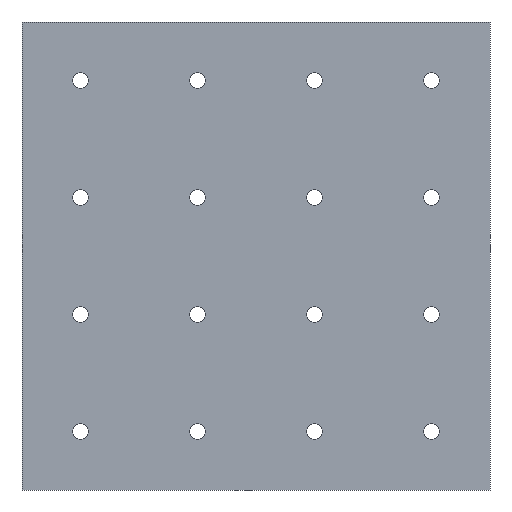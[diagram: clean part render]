
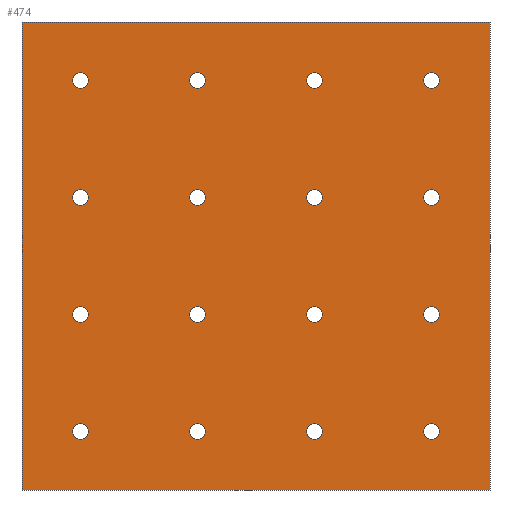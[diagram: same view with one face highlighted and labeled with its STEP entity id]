
A CAD part, front view. The second image highlights one B-rep face of the part: STEP entity #474.
In plain terms, the highlighted planar face has unit normal (0, -1, 0).
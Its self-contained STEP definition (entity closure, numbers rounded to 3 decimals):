
#31=FACE_BOUND('',#113,.T.);
#32=FACE_BOUND('',#114,.T.);
#33=FACE_BOUND('',#115,.T.);
#34=FACE_BOUND('',#116,.T.);
#35=FACE_BOUND('',#117,.T.);
#36=FACE_BOUND('',#118,.T.);
#37=FACE_BOUND('',#119,.T.);
#38=FACE_BOUND('',#120,.T.);
#39=FACE_BOUND('',#121,.T.);
#40=FACE_BOUND('',#122,.T.);
#41=FACE_BOUND('',#123,.T.);
#42=FACE_BOUND('',#124,.T.);
#43=FACE_BOUND('',#125,.T.);
#44=FACE_BOUND('',#126,.T.);
#45=FACE_BOUND('',#127,.T.);
#46=FACE_BOUND('',#128,.T.);
#52=PLANE('',#551);
#74=FACE_OUTER_BOUND('',#112,.T.);
#112=EDGE_LOOP('',(#417,#418,#419,#420));
#113=EDGE_LOOP('',(#421));
#114=EDGE_LOOP('',(#422));
#115=EDGE_LOOP('',(#423));
#116=EDGE_LOOP('',(#424));
#117=EDGE_LOOP('',(#425));
#118=EDGE_LOOP('',(#426));
#119=EDGE_LOOP('',(#427));
#120=EDGE_LOOP('',(#428));
#121=EDGE_LOOP('',(#429));
#122=EDGE_LOOP('',(#430));
#123=EDGE_LOOP('',(#431));
#124=EDGE_LOOP('',(#432));
#125=EDGE_LOOP('',(#433));
#126=EDGE_LOOP('',(#434));
#127=EDGE_LOOP('',(#435));
#128=EDGE_LOOP('',(#436));
#137=LINE('',#742,#165);
#146=LINE('',#780,#174);
#152=LINE('',#804,#180);
#155=LINE('',#809,#183);
#165=VECTOR('',#612,10.);
#174=VECTOR('',#653,10.);
#180=VECTOR('',#679,10.);
#183=VECTOR('',#684,10.);
#186=CIRCLE('',#500,1.65);
#188=CIRCLE('',#503,1.65);
#190=CIRCLE('',#506,1.65);
#192=CIRCLE('',#509,1.65);
#194=CIRCLE('',#512,1.65);
#196=CIRCLE('',#515,1.65);
#198=CIRCLE('',#518,1.65);
#200=CIRCLE('',#521,1.65);
#202=CIRCLE('',#525,1.65);
#204=CIRCLE('',#528,1.65);
#206=CIRCLE('',#531,1.65);
#208=CIRCLE('',#534,1.65);
#210=CIRCLE('',#537,1.65);
#212=CIRCLE('',#541,1.65);
#214=CIRCLE('',#544,1.65);
#216=CIRCLE('',#547,1.65);
#218=VERTEX_POINT('',#694);
#220=VERTEX_POINT('',#700);
#222=VERTEX_POINT('',#706);
#224=VERTEX_POINT('',#712);
#226=VERTEX_POINT('',#718);
#228=VERTEX_POINT('',#724);
#230=VERTEX_POINT('',#730);
#232=VERTEX_POINT('',#736);
#233=VERTEX_POINT('',#740);
#234=VERTEX_POINT('',#741);
#238=VERTEX_POINT('',#751);
#240=VERTEX_POINT('',#757);
#242=VERTEX_POINT('',#763);
#244=VERTEX_POINT('',#769);
#246=VERTEX_POINT('',#775);
#247=VERTEX_POINT('',#779);
#250=VERTEX_POINT('',#787);
#252=VERTEX_POINT('',#793);
#254=VERTEX_POINT('',#799);
#255=VERTEX_POINT('',#803);
#259=EDGE_CURVE('',#218,#218,#186,.T.);
#262=EDGE_CURVE('',#220,#220,#188,.T.);
#265=EDGE_CURVE('',#222,#222,#190,.T.);
#268=EDGE_CURVE('',#224,#224,#192,.T.);
#271=EDGE_CURVE('',#226,#226,#194,.T.);
#274=EDGE_CURVE('',#228,#228,#196,.T.);
#277=EDGE_CURVE('',#230,#230,#198,.T.);
#280=EDGE_CURVE('',#232,#232,#200,.T.);
#281=EDGE_CURVE('',#233,#234,#137,.T.);
#287=EDGE_CURVE('',#238,#238,#202,.T.);
#290=EDGE_CURVE('',#240,#240,#204,.T.);
#293=EDGE_CURVE('',#242,#242,#206,.T.);
#296=EDGE_CURVE('',#244,#244,#208,.T.);
#299=EDGE_CURVE('',#246,#246,#210,.T.);
#300=EDGE_CURVE('',#247,#234,#146,.T.);
#305=EDGE_CURVE('',#250,#250,#212,.T.);
#308=EDGE_CURVE('',#252,#252,#214,.T.);
#311=EDGE_CURVE('',#254,#254,#216,.T.);
#312=EDGE_CURVE('',#255,#247,#152,.T.);
#315=EDGE_CURVE('',#233,#255,#155,.T.);
#417=ORIENTED_EDGE('',*,*,#315,.F.);
#418=ORIENTED_EDGE('',*,*,#281,.T.);
#419=ORIENTED_EDGE('',*,*,#300,.F.);
#420=ORIENTED_EDGE('',*,*,#312,.F.);
#421=ORIENTED_EDGE('',*,*,#280,.T.);
#422=ORIENTED_EDGE('',*,*,#259,.T.);
#423=ORIENTED_EDGE('',*,*,#262,.T.);
#424=ORIENTED_EDGE('',*,*,#268,.T.);
#425=ORIENTED_EDGE('',*,*,#265,.T.);
#426=ORIENTED_EDGE('',*,*,#271,.T.);
#427=ORIENTED_EDGE('',*,*,#274,.T.);
#428=ORIENTED_EDGE('',*,*,#277,.T.);
#429=ORIENTED_EDGE('',*,*,#308,.F.);
#430=ORIENTED_EDGE('',*,*,#305,.F.);
#431=ORIENTED_EDGE('',*,*,#299,.F.);
#432=ORIENTED_EDGE('',*,*,#293,.F.);
#433=ORIENTED_EDGE('',*,*,#296,.F.);
#434=ORIENTED_EDGE('',*,*,#290,.F.);
#435=ORIENTED_EDGE('',*,*,#287,.F.);
#436=ORIENTED_EDGE('',*,*,#311,.F.);
#474=ADVANCED_FACE('',(#74,#31,#32,#33,#34,#35,#36,#37,#38,#39,#40,#41,
#42,#43,#44,#45,#46),#52,.F.);
#500=AXIS2_PLACEMENT_3D('',#696,#559,#560);
#503=AXIS2_PLACEMENT_3D('',#702,#566,#567);
#506=AXIS2_PLACEMENT_3D('',#708,#573,#574);
#509=AXIS2_PLACEMENT_3D('',#714,#580,#581);
#512=AXIS2_PLACEMENT_3D('',#720,#587,#588);
#515=AXIS2_PLACEMENT_3D('',#726,#594,#595);
#518=AXIS2_PLACEMENT_3D('',#732,#601,#602);
#521=AXIS2_PLACEMENT_3D('',#738,#608,#609);
#525=AXIS2_PLACEMENT_3D('',#753,#621,#622);
#528=AXIS2_PLACEMENT_3D('',#759,#628,#629);
#531=AXIS2_PLACEMENT_3D('',#765,#635,#636);
#534=AXIS2_PLACEMENT_3D('',#771,#642,#643);
#537=AXIS2_PLACEMENT_3D('',#777,#649,#650);
#541=AXIS2_PLACEMENT_3D('',#789,#661,#662);
#544=AXIS2_PLACEMENT_3D('',#795,#668,#669);
#547=AXIS2_PLACEMENT_3D('',#801,#675,#676);
#551=AXIS2_PLACEMENT_3D('',#812,#688,#689);
#559=DIRECTION('center_axis',(0.,1.,0.));
#560=DIRECTION('ref_axis',(-1.,0.,0.));
#566=DIRECTION('center_axis',(0.,1.,0.));
#567=DIRECTION('ref_axis',(-1.,0.,0.));
#573=DIRECTION('center_axis',(0.,1.,0.));
#574=DIRECTION('ref_axis',(-1.,0.,0.));
#580=DIRECTION('center_axis',(0.,1.,0.));
#581=DIRECTION('ref_axis',(-1.,0.,0.));
#587=DIRECTION('center_axis',(0.,1.,0.));
#588=DIRECTION('ref_axis',(-1.,0.,0.));
#594=DIRECTION('center_axis',(0.,1.,0.));
#595=DIRECTION('ref_axis',(-1.,0.,0.));
#601=DIRECTION('center_axis',(0.,1.,0.));
#602=DIRECTION('ref_axis',(-1.,0.,0.));
#608=DIRECTION('center_axis',(0.,1.,0.));
#609=DIRECTION('ref_axis',(-1.,0.,0.));
#612=DIRECTION('',(0.,0.,1.));
#621=DIRECTION('center_axis',(0.,-1.,0.));
#622=DIRECTION('ref_axis',(1.,0.,0.));
#628=DIRECTION('center_axis',(0.,-1.,0.));
#629=DIRECTION('ref_axis',(1.,0.,0.));
#635=DIRECTION('center_axis',(0.,-1.,0.));
#636=DIRECTION('ref_axis',(1.,0.,0.));
#642=DIRECTION('center_axis',(0.,-1.,0.));
#643=DIRECTION('ref_axis',(1.,0.,0.));
#649=DIRECTION('center_axis',(0.,-1.,0.));
#650=DIRECTION('ref_axis',(1.,0.,0.));
#653=DIRECTION('',(1.,0.,0.));
#661=DIRECTION('center_axis',(0.,-1.,0.));
#662=DIRECTION('ref_axis',(1.,0.,0.));
#668=DIRECTION('center_axis',(0.,-1.,0.));
#669=DIRECTION('ref_axis',(1.,0.,0.));
#675=DIRECTION('center_axis',(0.,-1.,0.));
#676=DIRECTION('ref_axis',(1.,0.,0.));
#679=DIRECTION('',(0.,0.,1.));
#684=DIRECTION('',(-1.,0.,0.));
#688=DIRECTION('center_axis',(0.,1.,0.));
#689=DIRECTION('ref_axis',(0.,0.,1.));
#694=CARTESIAN_POINT('',(39.15,0.,62.5));
#696=CARTESIAN_POINT('Origin',(37.5,0.,62.5));
#700=CARTESIAN_POINT('',(39.15,0.,37.5));
#702=CARTESIAN_POINT('Origin',(37.5,0.,37.5));
#706=CARTESIAN_POINT('',(39.15,0.,12.5));
#708=CARTESIAN_POINT('Origin',(37.5,0.,12.5));
#712=CARTESIAN_POINT('',(39.15,0.,-12.5));
#714=CARTESIAN_POINT('Origin',(37.5,0.,-12.5));
#718=CARTESIAN_POINT('',(64.15,0.,62.5));
#720=CARTESIAN_POINT('Origin',(62.5,0.,62.5));
#724=CARTESIAN_POINT('',(64.15,0.,37.5));
#726=CARTESIAN_POINT('Origin',(62.5,0.,37.5));
#730=CARTESIAN_POINT('',(64.15,0.,12.5));
#732=CARTESIAN_POINT('Origin',(62.5,0.,12.5));
#736=CARTESIAN_POINT('',(64.15,0.,-12.5));
#738=CARTESIAN_POINT('Origin',(62.5,0.,-12.5));
#740=CARTESIAN_POINT('',(75.,0.,-25.));
#741=CARTESIAN_POINT('',(75.,0.,75.));
#742=CARTESIAN_POINT('',(75.,0.,-25.));
#751=CARTESIAN_POINT('',(10.85,0.,62.5));
#753=CARTESIAN_POINT('Origin',(12.5,0.,62.5));
#757=CARTESIAN_POINT('',(10.85,0.,37.5));
#759=CARTESIAN_POINT('Origin',(12.5,0.,37.5));
#763=CARTESIAN_POINT('',(10.85,0.,12.5));
#765=CARTESIAN_POINT('Origin',(12.5,0.,12.5));
#769=CARTESIAN_POINT('',(10.85,0.,-12.5));
#771=CARTESIAN_POINT('Origin',(12.5,0.,-12.5));
#775=CARTESIAN_POINT('',(-14.15,0.,62.5));
#777=CARTESIAN_POINT('Origin',(-12.5,0.,62.5));
#779=CARTESIAN_POINT('',(-25.,0.,75.));
#780=CARTESIAN_POINT('',(-25.,0.,75.));
#787=CARTESIAN_POINT('',(-14.15,0.,37.5));
#789=CARTESIAN_POINT('Origin',(-12.5,0.,37.5));
#793=CARTESIAN_POINT('',(-14.15,0.,12.5));
#795=CARTESIAN_POINT('Origin',(-12.5,0.,12.5));
#799=CARTESIAN_POINT('',(-14.15,0.,-12.5));
#801=CARTESIAN_POINT('Origin',(-12.5,0.,-12.5));
#803=CARTESIAN_POINT('',(-25.,0.,-25.));
#804=CARTESIAN_POINT('',(-25.,0.,-25.));
#809=CARTESIAN_POINT('',(0.,0.,-25.));
#812=CARTESIAN_POINT('Origin',(-12.5,0.,-12.5));
